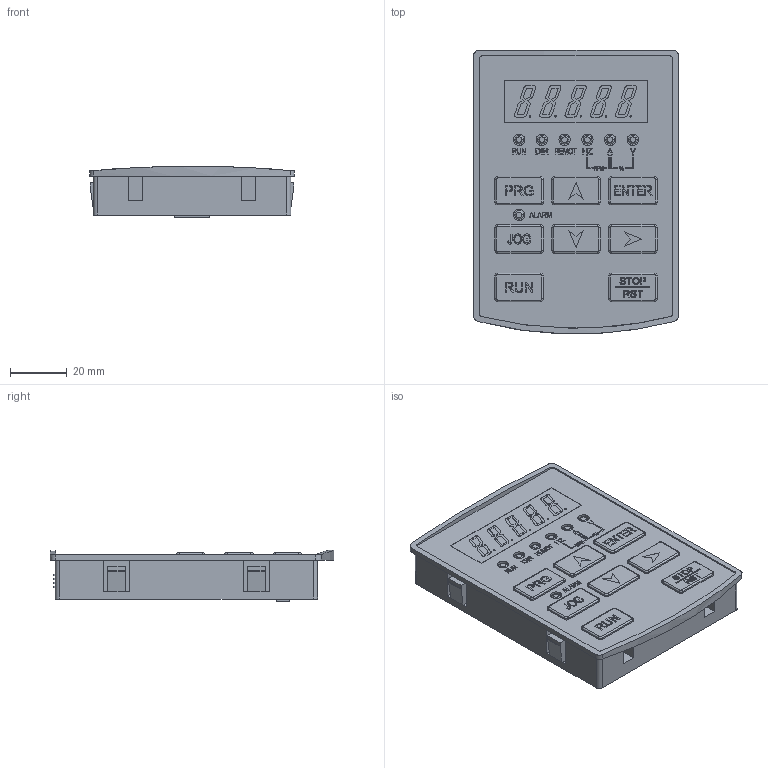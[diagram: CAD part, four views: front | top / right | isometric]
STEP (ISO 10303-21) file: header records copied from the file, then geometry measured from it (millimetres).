
FILE_DESCRIPTION (( 'STEP AP214' ), '1' );
FILE_NAME ('ZBLD.C20-KB5T-U.STEP', '2020-04-09T04:27:23', ( 'Sky123.Org' ), ( 'Sky123.Org' ), 'SwSTEP 2.0', 'SolidWorks 2014', '' );
FILE_SCHEMA (( 'AUTOMOTIVE_DESIGN' ));
Length unit declared in the file: millimetre
Products named in the file (1): ZBLD.C20-KB5T-U
Bounding box: 72 x 99.73 x 18.2 mm (x, y, z)
Volume: 96528.9 mm3; surface area: 22370.9 mm2
Topology: 1 solids, 1 shells, 1227 faces, 3190 edges, 2098 vertices
Faces by surface type: plane 811, bspline 249, cylinder 121, torus 46
Entity records: 49200 total; most frequent: CARTESIAN_POINT 20525, ORIENTED_EDGE 6380, DIRECTION 4932, EDGE_CURVE 3190, VECTOR 2390, LINE 2390, VERTEX_POINT 2098, EDGE_LOOP 1366
